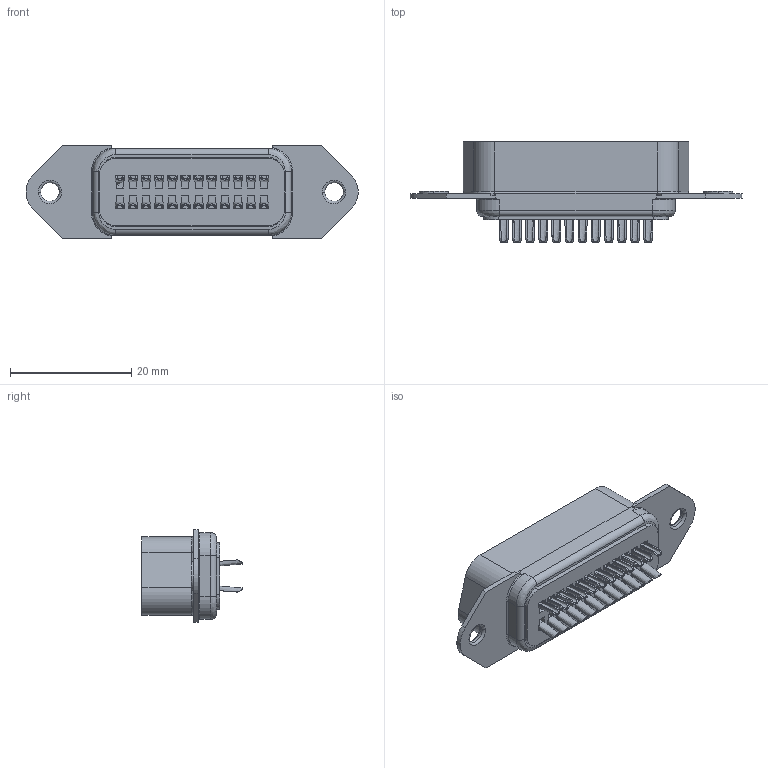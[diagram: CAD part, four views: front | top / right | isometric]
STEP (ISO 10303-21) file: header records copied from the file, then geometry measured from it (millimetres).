
FILE_DESCRIPTION (( 'STEP AP214' ), '1' );
FILE_NAME ('111-024-103L001.STEP', '2020-07-21T18:58:05', ( '' ), ( '' ), 'SwSTEP 2.0', 'SolidWorks 2020', '' );
FILE_SCHEMA (( 'AUTOMOTIVE_DESIGN' ));
Length unit declared in the file: millimetre
Products named in the file (1): 111-024-103L001
Bounding box: 54.67 x 16.5 x 15.3 mm (x, y, z)
Surface area: 6307.9 mm2 (no closed solid volume)
Topology: 0 solids, 29 shells, 1575 faces, 4795 edges, 3181 vertices
Faces by surface type: plane 1101, cylinder 378, bspline 96
Entity records: 67548 total; most frequent: CARTESIAN_POINT 26224, ORIENTED_EDGE 9346, DIRECTION 7429, EDGE_CURVE 4781, LINE 3223, VECTOR 3223, VERTEX_POINT 3184, AXIS2_PLACEMENT_3D 2103
